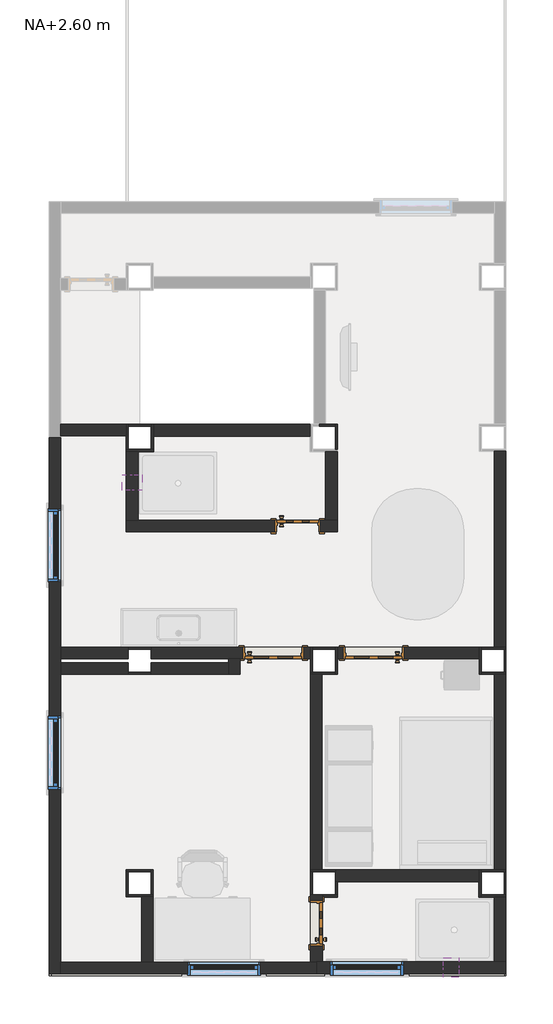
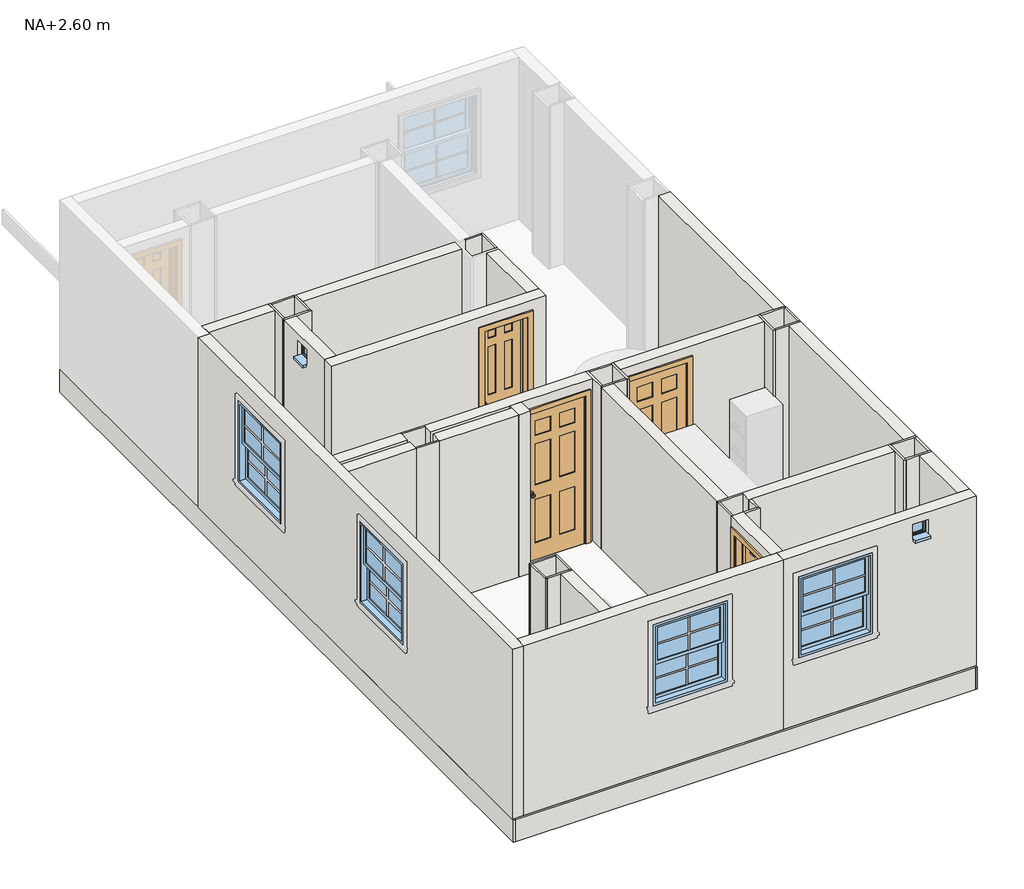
# One storey, part 1 of 2: 52 walls, 6 windows, 4 doors.
"""IFC4 building model written with IfcOpenShell, lengths in millimetres."""

from ifc_helpers import new_model, si_unit, frame, origin, place, context, project, spatial, polyline, outline, extrude, faceted_brep, transform, mapped, element, save
from components import m_puerta_interior_simple_6_paneles_madera_550_x_2000mm_e46cda8c, m_puerta_interior_simple_6_paneles_madera_550_x_2000mm_fa426422, m_puerta_interior_simple_6_paneles_madera_750_x_2000mm_baa31555, m_puerta_interior_simple_6_paneles_madera_750_x_2000mm_028ab884, m_ventana_dos_hojas_500_x_800mm_5dca547a, m_ventana_dos_hojas_650_x_1100mm_6053d4a6, ventana_simple_20_x_20_cm_fcfd3fe3

model = new_model("IFC4")

# Units and contexts
model_context = context("Model", 3, world=origin())
ifc_project = project(units=[si_unit("LENGTHUNIT", "METRE", prefix="MILLI")], contexts=[model_context])

# Site, building, storey
site = spatial("IfcSite", under=ifc_project)
building = spatial("IfcBuilding", under=site)
storey = spatial("IfcBuildingStorey", under=building, Name="NA+2.60 m", Elevation=2600.0)

# Doors
placement = place(None, origin())
m_puerta_interior_simple_6_paneles_madera_550_x_2000mm_shape = m_puerta_interior_simple_6_paneles_madera_550_x_2000mm_e46cda8c(model_context)
element("IfcDoor", 1, ObjectType="M_Puerta-Interior-Simple-6_paneles-Madera : 550 x 2000mm", at=placement, inside=storey, context=model_context, shape_type="MappedRepresentation", body=[
    mapped(m_puerta_interior_simple_6_paneles_madera_550_x_2000mm_shape, transform((1162.3188918, -2331.5117862, 2700.0), x_axis=(1.0, 0.0, 0.0), y_axis=(0.0, 1.0, 0.0), z_axis=(0.0, 0.0, 1.0))),
])
m_puerta_interior_simple_6_paneles_madera_550_x_2000mm_2_shape = m_puerta_interior_simple_6_paneles_madera_550_x_2000mm_fa426422(model_context)
element("IfcDoor", 2, ObjectType="M_Puerta-Interior-Simple-6_paneles-Madera : 550 x 2000mm", at=placement, inside=storey, context=model_context, shape_type="MappedRepresentation", body=[
    mapped(m_puerta_interior_simple_6_paneles_madera_550_x_2000mm_2_shape, transform((1407.9938918, -7507.1867862, 2700.0), x_axis=(0.0, 1.0, 0.0), y_axis=(-1.0, 0.0, 0.0), z_axis=(0.0, 0.0, 1.0))),
])
m_puerta_interior_simple_6_paneles_madera_750_x_2000mm_shape = m_puerta_interior_simple_6_paneles_madera_750_x_2000mm_baa31555(model_context)
element("IfcDoor", 3, ObjectType="M_Puerta-Interior-Simple-6_paneles-Madera : 750 x 2000mm", at=placement, inside=storey, context=model_context, shape_type="MappedRepresentation", body=[
    mapped(m_puerta_interior_simple_6_paneles_madera_750_x_2000mm_shape, transform((2152.3188918, -3990.3617862, 2700.0), x_axis=(-1.0, 0.0, 0.0), y_axis=(0.0, -1.0, 0.0), z_axis=(0.0, 0.0, 1.0))),
])
m_puerta_interior_simple_6_paneles_madera_750_x_2000mm_2_shape = m_puerta_interior_simple_6_paneles_madera_750_x_2000mm_028ab884(model_context)
element("IfcDoor", 4, ObjectType="M_Puerta-Interior-Simple-6_paneles-Madera : 750 x 2000mm", at=placement, inside=storey, context=model_context, shape_type="MappedRepresentation", body=[
    mapped(m_puerta_interior_simple_6_paneles_madera_750_x_2000mm_2_shape, transform((844.8188918, -3990.3617862, 2700.0), x_axis=(1.0, 0.0, 0.0), y_axis=(0.0, 1.0, 0.0), z_axis=(0.0, 0.0, 1.0))),
])

# Walls
element("IfcWall", 5, ObjectType="HECM - Muro Pintura Blanca 2 caras", at=placement, inside=storey, context=model_context, shape_type="Brep", body=[
    faceted_brep([(-1922.6811082, -8162.1867862, 2600.0), (-1922.6811082, -8012.1867862, 2600.0), (-1922.6811082, -4262.1867862, 2600.0), (-1922.6811082, -4112.1867862, 2600.0), (-1922.6811082, -4062.1867862, 2600.0), (-1922.6811082, -3912.1867862, 2600.0), (-1922.6811082, -1187.1867862, 2600.0), (-1922.6811082, -1187.1867862, 4900.0), (-1922.6811082, -3912.1867862, 4900.0), (-1922.6811082, -4062.1867862, 4900.0), (-1922.6811082, -4112.1867862, 4900.0), (-1922.6811082, -4262.1867862, 4900.0), (-1922.6811082, -8012.1867862, 4900.0), (-1922.6811082, -8162.1867862, 4900.0), (-1922.6811082, -5762.1867862, 4614.4), (-1922.6811082, -4812.1867862, 4614.4), (-1922.6811082, -4812.1867862, 3514.4), (-1922.6811082, -5762.1867862, 3514.4), (-1922.6811082, -3062.1867862, 4614.4), (-1922.6811082, -2112.1867862, 4614.4), (-1922.6811082, -2112.1867862, 3514.4), (-1922.6811082, -3062.1867862, 3514.4), (-2072.6811082, -8162.1867862, 2600.0), (-2072.6811082, -8162.1867862, 4900.0), (-2072.6811082, -1187.1867862, 4900.0), (-2072.6811082, -1187.1867862, 2600.0), (-2072.6811082, -5762.1867862, 4614.4), (-2072.6811082, -5762.1867862, 3514.4), (-2072.6811082, -4812.1867862, 3514.4), (-2072.6811082, -4812.1867862, 4614.4), (-2072.6811082, -3062.1867862, 4614.4), (-2072.6811082, -3062.1867862, 3514.4), (-2072.6811082, -2112.1867862, 3514.4), (-2072.6811082, -2112.1867862, 4614.4)], [[[0, 1, 2, 3, 4, 5, 6, 7, 8, 9, 10, 11, 12, 13], [14, 15, 16, 17], [18, 19, 20, 21]], [[22, 23, 24, 25], [26, 27, 28, 29], [30, 31, 32, 33]], [[6, 5, 4, 3, 2, 1, 0, 22, 25]], [[7, 6, 25, 24]], [[13, 12, 11, 10, 9, 8, 7, 24, 23]], [[0, 13, 23, 22]], [[27, 26, 14, 17]], [[28, 27, 17, 16]], [[29, 28, 16, 15]], [[26, 29, 15, 14]], [[31, 30, 18, 21]], [[32, 31, 21, 20]], [[33, 32, 20, 19]], [[30, 33, 19, 18]]]),
])
element("IfcWall", 6, ObjectType="HECM - Muro Pintura Blanca 2 caras", at=placement, inside=storey, context=model_context, shape_type="Brep", body=[
    faceted_brep([(-1922.6811082, -8162.1867862, 2600.0), (1404.8188918, -8162.1867862, 2600.0), (1404.8188918, -8162.1867862, 4900.0), (-1922.6811082, -8162.1867862, 4900.0), (677.3188918, -8162.1867862, 4614.4), (677.3188918, -8162.1867862, 3514.4), (-272.6811082, -8162.1867862, 3514.4), (-272.6811082, -8162.1867862, 4614.4), (-1922.6811082, -8012.1867862, 2600.0), (-1922.6811082, -8012.1867862, 4900.0), (-872.6811082, -8012.1867862, 4900.0), (-722.6811082, -8012.1867862, 4900.0), (1327.3188918, -8012.1867862, 4900.0), (1404.8188918, -8012.1867862, 4900.0), (1404.8188918, -8012.1867862, 2600.0), (1327.3188918, -8012.1867862, 2600.0), (-722.6811082, -8012.1867862, 2600.0), (-872.6811082, -8012.1867862, 2600.0), (677.3188918, -8012.1867862, 4614.4), (-272.6811082, -8012.1867862, 4614.4), (-272.6811082, -8012.1867862, 3514.4), (677.3188918, -8012.1867862, 3514.4)], [[[0, 1, 2, 3], [4, 5, 6, 7]], [[8, 9, 10, 11, 12, 13, 14, 15, 16, 17], [18, 19, 20, 21]], [[1, 0, 8, 17, 16, 15, 14]], [[2, 1, 14, 13]], [[3, 2, 13, 12, 11, 10, 9]], [[0, 3, 9, 8]], [[5, 4, 18, 21]], [[6, 5, 21, 20]], [[7, 6, 20, 19]], [[4, 7, 19, 18]]]),
])
element("IfcWall", 7, ObjectType="HECM - Muro Pintura Blanca - enchape baño", at=placement, inside=storey, context=model_context, shape_type="SweptSolid", body=[
    extrude(outline(polyline([(3877.3188918, -7167.1867862), (3877.3188918, -8007.1867862), (3722.3188918, -8007.1867862), (3722.3188918, -7167.1867862), (3877.3188918, -7167.1867862)])), frame((0.0, 0.0, 2600.0), z_axis=(0.0, 0.0, 1.0), x_axis=(1.0, 0.0, 0.0)), (0.0, 0.0, 1.0), 2300.0),
])
element("IfcWall", 8, ObjectType="HECM - Muro Pintura Blanca 2 caras", at=placement, inside=storey, context=model_context, shape_type="SweptSolid", body=[
    extrude(outline(polyline([(3877.3188918, -4262.1867862), (3877.3188918, -6812.1867862), (3727.3188918, -6812.1867862), (3727.3188918, -4262.1867862), (3877.3188918, -4262.1867862)])), frame((0.0, 0.0, 2600.0), z_axis=(0.0, 0.0, 1.0), x_axis=(1.0, 0.0, 0.0)), (0.0, 0.0, 1.0), 2300.0),
])
element("IfcWall", 9, ObjectType="HECM - Muro Pintura Blanca 2 caras", at=placement, inside=storey, context=model_context, shape_type="SweptSolid", body=[
    extrude(outline(polyline([(3877.3188918, -1362.1867862), (3877.3188918, -3912.1867862), (3727.3188918, -3912.1867862), (3727.3188918, -1362.1867862), (3877.3188918, -1362.1867862)])), frame((0.0, 0.0, 2600.0), z_axis=(0.0, 0.0, 1.0), x_axis=(1.0, 0.0, 0.0)), (0.0, 0.0, 1.0), 2300.0),
])
element("IfcWall", 10, ObjectType="HECM - Muro Pintura Blanca 2 caras", at=placement, inside=storey, context=model_context, shape_type="SweptSolid", body=[
    extrude(outline(polyline([(-872.6811082, -8012.1867862), (-872.6811082, -7162.1867862), (-722.6811082, -7162.1867862), (-722.6811082, -8012.1867862), (-872.6811082, -8012.1867862)])), frame((0.0, 0.0, 2600.0), z_axis=(0.0, 0.0, 1.0), x_axis=(1.0, 0.0, 0.0)), (0.0, 0.0, 1.0), 2300.0),
])
element("IfcWall", 11, ObjectType="HECM - Muro Pintura Blanca - enchape baño", at=placement, inside=storey, context=model_context, shape_type="Brep", body=[
    faceted_brep([(1327.3188918, -7137.1867862, 2600.0), (1327.3188918, -8012.1867862, 2600.0), (1327.3188918, -8012.1867862, 4900.0), (1327.3188918, -7137.1867862, 4900.0), (1327.3188918, -7207.1867862, 4725.0), (1327.3188918, -7807.1867862, 4725.0), (1327.3188918, -7807.1867862, 2700.0), (1327.3188918, -7207.1867862, 2700.0), (1482.3188918, -8007.1867862, 2600.0), (1482.3188918, -7167.1867862, 2600.0), (1482.3188918, -7137.1867862, 2600.0), (1482.3188918, -7137.1867862, 4900.0), (1482.3188918, -7167.1867862, 4900.0), (1482.3188918, -8007.1867862, 4900.0), (1482.3188918, -7807.1867862, 4725.0), (1482.3188918, -7207.1867862, 4725.0), (1482.3188918, -7207.1867862, 2700.0), (1482.3188918, -7807.1867862, 2700.0), (1352.3188918, -7137.1867862, 2600.0), (1404.8188918, -8007.1867862, 2600.0), (1404.8188918, -8012.1867862, 2600.0), (1404.8188918, -8012.1867862, 4900.0), (1404.8188918, -8007.1867862, 4900.0), (1352.3188918, -7137.1867862, 4900.0)], [[[0, 1, 2, 3], [4, 5, 6, 7]], [[8, 9, 10, 11, 12, 13], [14, 15, 16, 17]], [[1, 0, 18, 10, 9, 8, 19, 20]], [[3, 2, 21, 22, 13, 12, 11, 23]], [[0, 3, 23, 11, 10, 18]], [[2, 1, 20, 21]], [[4, 15, 14, 5]], [[5, 14, 17, 6]], [[6, 17, 16, 7]], [[15, 4, 7, 16]], [[20, 19, 22, 21]], [[8, 13, 22, 19]]]),
])
element("IfcWall", 12, ObjectType="HECM - Muro Pintura Blanca - enchape baño", at=placement, inside=storey, context=model_context, shape_type="Brep", body=[
    faceted_brep([(3522.3188918, -6812.1867862, 2600.0), (1652.3188918, -6812.1867862, 2600.0), (1652.3188918, -6812.1867862, 4900.0), (3522.3188918, -6812.1867862, 4900.0), (3522.3188918, -6967.1867862, 2600.0), (3522.3188918, -6967.1867862, 4900.0), (1682.3188918, -6967.1867862, 4900.0), (1652.3188918, -6967.1867862, 4900.0), (1652.3188918, -6967.1867862, 2600.0), (1682.3188918, -6967.1867862, 2600.0), (1652.3188918, -6837.1867862, 2600.0), (1652.3188918, -6837.1867862, 4900.0)], [[[0, 1, 2, 3]], [[4, 5, 6, 7, 8, 9]], [[1, 0, 4, 9, 8, 10]], [[3, 2, 11, 7, 6, 5]], [[2, 1, 10, 8, 7, 11]], [[0, 3, 5, 4]]]),
])
element("IfcWall", 13, ObjectType="HECM - Muro Pintura Blanca 2 caras", at=placement, inside=storey, context=model_context, shape_type="SweptSolid", body=[
    extrude(outline(polyline([(1477.3188918, -4262.1867862), (1477.3188918, -6812.1867862), (1327.3188918, -6812.1867862), (1327.3188918, -4262.1867862), (1477.3188918, -4262.1867862)])), frame((0.0, 0.0, 2600.0), z_axis=(0.0, 0.0, 1.0), x_axis=(1.0, 0.0, 0.0)), (0.0, 0.0, 1.0), 2300.0),
])
element("IfcWall", 14, ObjectType="HECM - Muro Pintura Blanca 2 caras", at=placement, inside=storey, context=model_context, shape_type="SweptSolid", body=[
    extrude(outline(polyline([(2600.0, 1677.3188918), (2600.0, 3527.3188918), (4900.0, 3527.3188918), (4900.0, 1677.3188918), (2600.0, 1677.3188918)]), holes=[polyline([(2700.0, 1752.3188918), (4725.0, 1752.3188918), (4725.0, 2552.3188918), (2700.0, 2552.3188918), (2700.0, 1752.3188918)])]), frame((0.0, -4062.1867862, 0.0), z_axis=(0.0, 1.0, 0.0), x_axis=(0.0, 0.0, 1.0)), (0.0, 0.0, 1.0), 150.0),
])
element("IfcWall", 15, ObjectType="HECM - Muro Pintura Blanca 2 caras", at=placement, inside=storey, context=model_context, shape_type="Brep", body=[
    faceted_brep([(-747.6811082, -4062.1867862, 2600.0), (262.3188918, -4062.1867862, 2600.0), (412.3188918, -4062.1867862, 2600.0), (1327.3188918, -4062.1867862, 2600.0), (1327.3188918, -4062.1867862, 4900.0), (412.3188918, -4062.1867862, 4900.0), (262.3188918, -4062.1867862, 4900.0), (-747.6811082, -4062.1867862, 4900.0), (1244.8188918, -4062.1867862, 4725.0), (1244.8188918, -4062.1867862, 2700.0), (444.8188918, -4062.1867862, 2700.0), (444.8188918, -4062.1867862, 4725.0), (1327.3188918, -3912.1867862, 2600.0), (-747.6811082, -3912.1867862, 2600.0), (-747.6811082, -3912.1867862, 4900.0), (1327.3188918, -3912.1867862, 4900.0), (1244.8188918, -3912.1867862, 2700.0), (1244.8188918, -3912.1867862, 4725.0), (444.8188918, -3912.1867862, 4725.0), (444.8188918, -3912.1867862, 2700.0), (-747.6811082, -3937.1867862, 2600.0), (-747.6811082, -3937.1867862, 4900.0)], [[[0, 1, 2, 3, 4, 5, 6, 7], [8, 9, 10, 11]], [[12, 13, 14, 15], [16, 17, 18, 19]], [[3, 2, 1, 0, 20, 13, 12]], [[7, 6, 5, 4, 15, 14, 21]], [[0, 7, 21, 14, 13, 20]], [[16, 9, 8, 17]], [[17, 8, 11, 18]], [[18, 11, 10, 19]], [[9, 16, 19, 10]], [[4, 3, 12, 15]]]),
])
element("IfcWall", 16, ObjectType="HECM - Muro Pintura Blanca 2 caras", at=placement, inside=storey, context=model_context, shape_type="Brep", body=[
    faceted_brep([(-747.6811082, -4262.1867862, 2600.0), (262.3188918, -4262.1867862, 2600.0), (262.3188918, -4262.1867862, 4900.0), (-747.6811082, -4262.1867862, 4900.0), (-747.6811082, -4112.1867862, 2600.0), (-747.6811082, -4112.1867862, 4900.0), (262.3188918, -4112.1867862, 4900.0), (262.3188918, -4112.1867862, 2600.0), (-747.6811082, -4237.1867862, 2600.0), (-747.6811082, -4237.1867862, 4900.0)], [[[0, 1, 2, 3]], [[4, 5, 6, 7]], [[1, 0, 8, 4, 7]], [[3, 2, 6, 5, 9]], [[0, 3, 9, 5, 4, 8]], [[2, 1, 7, 6]]]),
])
element("IfcWall", 17, ObjectType="HECM - Muro Pintura Blanca 2 caras", at=placement, inside=storey, context=model_context, shape_type="Brep", body=[
    faceted_brep([(412.3188918, -4262.1867862, 2600.0), (412.3188918, -4062.1867862, 2600.0), (412.3188918, -4062.1867862, 4900.0), (412.3188918, -4262.1867862, 4900.0), (262.3188918, -4262.1867862, 2600.0), (262.3188918, -4262.1867862, 4900.0), (262.3188918, -4112.1867862, 4900.0), (262.3188918, -4062.1867862, 4900.0), (262.3188918, -4062.1867862, 2600.0), (262.3188918, -4112.1867862, 2600.0)], [[[0, 1, 2, 3]], [[4, 5, 6, 7, 8, 9]], [[1, 0, 4, 9, 8]], [[3, 2, 7, 6, 5]], [[0, 3, 5, 4]], [[2, 1, 8, 7]]]),
])
element("IfcWall", 18, ObjectType="HECM - Muro Pintura Blanca 2 caras", at=placement, inside=storey, context=model_context, shape_type="Brep", body=[
    faceted_brep([(-1047.6811082, -3912.1867862, 2600.0), (-1922.6811082, -3912.1867862, 2600.0), (-1922.6811082, -3912.1867862, 4900.0), (-1047.6811082, -3912.1867862, 4900.0), (-1047.6811082, -4062.1867862, 2600.0), (-1047.6811082, -4062.1867862, 4900.0), (-1922.6811082, -4062.1867862, 4900.0), (-1922.6811082, -4062.1867862, 2600.0), (-1047.6811082, -3937.1867862, 2600.0), (-1047.6811082, -3937.1867862, 4900.0)], [[[0, 1, 2, 3]], [[4, 5, 6, 7]], [[1, 0, 8, 4, 7]], [[3, 2, 6, 5, 9]], [[0, 3, 9, 5, 4, 8]], [[2, 1, 7, 6]]]),
])
element("IfcWall", 19, ObjectType="HECM - Muro Pintura Blanca 2 caras", at=placement, inside=storey, context=model_context, shape_type="Brep", body=[
    faceted_brep([(-1047.6811082, -4112.1867862, 2600.0), (-1922.6811082, -4112.1867862, 2600.0), (-1922.6811082, -4112.1867862, 4900.0), (-1047.6811082, -4112.1867862, 4900.0), (-1047.6811082, -4262.1867862, 2600.0), (-1047.6811082, -4262.1867862, 4900.0), (-1922.6811082, -4262.1867862, 4900.0), (-1922.6811082, -4262.1867862, 2600.0), (-1047.6811082, -4237.1867862, 2600.0), (-1047.6811082, -4237.1867862, 4900.0)], [[[0, 1, 2, 3]], [[4, 5, 6, 7]], [[1, 0, 8, 4, 7]], [[3, 2, 6, 5, 9]], [[0, 3, 9, 5, 4, 8]], [[2, 1, 7, 6]]]),
])
element("IfcWall", 20, ObjectType="HECM - Muro Pintura Blanca 2 caras", at=placement, inside=storey, context=model_context, shape_type="SweptSolid", body=[
    extrude(outline(polyline([(-1922.6811082, -1012.1867862), (-1072.6811082, -1012.1867862), (-1072.6811082, -1162.1867862), (-1922.6811082, -1162.1867862), (-1922.6811082, -1012.1867862)])), frame((0.0, 0.0, 2600.0), z_axis=(0.0, 0.0, 1.0), x_axis=(1.0, 0.0, 0.0)), (0.0, 0.0, 1.0), 2300.0),
])
element("IfcWall", 21, ObjectType="HECM - Muro Pintura Blanca - enchape baño", at=placement, inside=storey, context=model_context, shape_type="SweptSolid", body=[
    extrude(outline(polyline([(1322.3188918, -1167.1867862), (-717.6811082, -1167.1867862), (-717.6811082, -1012.1867862), (1322.3188918, -1012.1867862), (1322.3188918, -1167.1867862)])), frame((0.0, 0.0, 2600.0), z_axis=(0.0, 0.0, 1.0), x_axis=(1.0, 0.0, 0.0)), (0.0, 0.0, 1.0), 2300.0),
])
element("IfcWall", 22, ObjectType="HECM - Muro Pintura Blanca - enchape baño", at=placement, inside=storey, context=model_context, shape_type="Brep", body=[
    faceted_brep([(1677.3188918, -2412.1867862, 4900.0), (-1072.6811082, -2412.1867862, 4900.0), (-1072.6811082, -2412.1867862, 2700.0), (-1072.6811082, -2412.1867862, 2600.0), (862.3188918, -2412.1867862, 2600.0), (862.3188918, -2412.1867862, 2700.0), (862.3188918, -2412.1867862, 4725.0), (1462.3188918, -2412.1867862, 4725.0), (1462.3188918, -2412.1867862, 2700.0), (1437.3188918, -2412.1867862, 2700.0), (1437.3188918, -2412.1867862, 2600.0), (1677.3188918, -2412.1867862, 2600.0), (1677.3188918, -2412.1867862, 2700.0), (-1072.6811082, -2257.1867862, 4900.0), (-917.6811082, -2257.1867862, 4900.0), (1522.3188918, -2257.1867862, 4900.0), (1677.3188918, -2257.1867862, 4900.0), (1677.3188918, -2257.1867862, 2700.0), (1677.3188918, -2257.1867862, 2600.0), (1522.3188918, -2257.1867862, 2600.0), (1437.3188918, -2257.1867862, 2600.0), (1437.3188918, -2257.1867862, 2700.0), (1462.3188918, -2257.1867862, 2700.0), (1462.3188918, -2257.1867862, 4725.0), (862.3188918, -2257.1867862, 4725.0), (862.3188918, -2257.1867862, 2700.0), (862.3188918, -2257.1867862, 2600.0), (-917.6811082, -2257.1867862, 2600.0), (-1072.6811082, -2257.1867862, 2600.0), (-1072.6811082, -2257.1867862, 2700.0)], [[[0, 1, 2, 3, 4, 5, 6, 7, 8, 9, 10, 11, 12]], [[13, 14, 15, 16, 17, 18, 19, 20, 21, 22, 23, 24, 25, 26, 27, 28, 29]], [[3, 28, 27, 26, 4]], [[18, 11, 10, 20, 19]], [[1, 0, 16, 15, 14, 13]], [[1, 13, 29, 28, 3, 2]], [[11, 18, 17, 16, 0, 12]], [[22, 8, 7, 23]], [[23, 7, 6, 24]], [[24, 6, 5, 4, 26, 25]], [[8, 22, 21, 9]], [[10, 9, 21, 20]]]),
])
element("IfcWall", 23, ObjectType="HECM - Muro Pintura Blanca - enchape baño", at=placement, inside=storey, context=model_context, shape_type="SweptSolid", body=[
    extrude(outline(polyline([(-1367.1867862, 2600.0), (-2257.1867862, 2600.0), (-2257.1867862, 4900.0), (-1367.1867862, 4900.0), (-1367.1867862, 2600.0)]), holes=[polyline([(-1667.1867862, 4600.0), (-1667.1867862, 4800.0), (-1867.1867862, 4800.0), (-1867.1867862, 4600.0), (-1667.1867862, 4600.0)])]), frame((-1072.6811082, 0.0, 0.0), z_axis=(1.0, 0.0, 0.0), x_axis=(0.0, 1.0, 0.0)), (0.0, 0.0, 1.0), 155.0),
])
element("IfcWall", 24, ObjectType="HECM - Muro Pintura Blanca - enchape baño", at=placement, inside=storey, context=model_context, shape_type="SweptSolid", body=[
    extrude(outline(polyline([(1677.3188918, -1367.1867862), (1677.3188918, -2257.1867862), (1522.3188918, -2257.1867862), (1522.3188918, -1367.1867862), (1677.3188918, -1367.1867862)])), frame((0.0, 0.0, 2600.0), z_axis=(0.0, 0.0, 1.0), x_axis=(1.0, 0.0, 0.0)), (0.0, 0.0, 1.0), 2300.0),
])
element("IfcWall", 25, ObjectType="HECM - Acabado de pintura blanca", at=placement, inside=storey, context=model_context, shape_type="SweptSolid", body=[
    extrude(outline(polyline([(1327.3188918, -7137.1867862), (1327.3188918, -6837.1867862), (1352.3188918, -6837.1867862), (1352.3188918, -7137.1867862), (1327.3188918, -7137.1867862)])), frame((0.0, 0.0, 2600.0), z_axis=(0.0, 0.0, 1.0), x_axis=(1.0, 0.0, 0.0)), (0.0, 0.0, 1.0), 2300.0),
])
element("IfcWall", 26, ObjectType="HECM - Acabado de pintura blanca", at=placement, inside=storey, context=model_context, shape_type="Brep", body=[
    faceted_brep([(1327.3188918, -6837.1867862, 2600.0), (1352.3188918, -6837.1867862, 2600.0), (1652.3188918, -6837.1867862, 2600.0), (1652.3188918, -6837.1867862, 4900.0), (1352.3188918, -6837.1867862, 4900.0), (1327.3188918, -6837.1867862, 4900.0), (1327.3188918, -6812.1867862, 2600.0), (1327.3188918, -6812.1867862, 4900.0), (1477.3188918, -6812.1867862, 4900.0), (1652.3188918, -6812.1867862, 4900.0), (1652.3188918, -6812.1867862, 2600.0), (1477.3188918, -6812.1867862, 2600.0)], [[[0, 1, 2, 3, 4, 5]], [[6, 7, 8, 9, 10, 11]], [[2, 1, 0, 6, 11, 10]], [[5, 4, 3, 9, 8, 7]], [[0, 5, 7, 6]], [[3, 2, 10, 9]]]),
])
element("IfcWall", 27, ObjectType="HECM - Acabado de pintura blanca", at=placement, inside=storey, context=model_context, shape_type="Brep", body=[
    faceted_brep([(-722.6811082, -7137.1867862, 2600.0), (-722.6811082, -6812.1867862, 2600.0), (-722.6811082, -6812.1867862, 4900.0), (-722.6811082, -7137.1867862, 4900.0), (-747.6811082, -7137.1867862, 2600.0), (-747.6811082, -7137.1867862, 4900.0), (-747.6811082, -6837.1867862, 4900.0), (-747.6811082, -6812.1867862, 4900.0), (-747.6811082, -6812.1867862, 2600.0), (-747.6811082, -6837.1867862, 2600.0)], [[[0, 1, 2, 3]], [[4, 5, 6, 7, 8, 9]], [[1, 0, 4, 9, 8]], [[3, 2, 7, 6, 5]], [[2, 1, 8, 7]], [[0, 3, 5, 4]]]),
])
element("IfcWall", 28, ObjectType="HECM - Acabado de pintura blanca", at=placement, inside=storey, context=model_context, shape_type="Brep", body=[
    faceted_brep([(-747.6811082, -6812.1867862, 2600.0), (-1072.6811082, -6812.1867862, 2600.0), (-1072.6811082, -6812.1867862, 4900.0), (-747.6811082, -6812.1867862, 4900.0), (-747.6811082, -6837.1867862, 2600.0), (-747.6811082, -6837.1867862, 4900.0), (-1047.6811082, -6837.1867862, 4900.0), (-1072.6811082, -6837.1867862, 4900.0), (-1072.6811082, -6837.1867862, 2600.0), (-1047.6811082, -6837.1867862, 2600.0)], [[[0, 1, 2, 3]], [[4, 5, 6, 7, 8, 9]], [[1, 0, 4, 9, 8]], [[3, 2, 7, 6, 5]], [[0, 3, 5, 4]], [[2, 1, 8, 7]]]),
])
element("IfcWall", 29, ObjectType="HECM - Acabado de pintura blanca", at=placement, inside=storey, context=model_context, shape_type="Brep", body=[
    faceted_brep([(-1072.6811082, -6837.1867862, 2600.0), (-1072.6811082, -7162.1867862, 2600.0), (-1072.6811082, -7162.1867862, 4900.0), (-1072.6811082, -6837.1867862, 4900.0), (-1047.6811082, -6837.1867862, 2600.0), (-1047.6811082, -6837.1867862, 4900.0), (-1047.6811082, -7137.1867862, 4900.0), (-1047.6811082, -7162.1867862, 4900.0), (-1047.6811082, -7162.1867862, 2600.0), (-1047.6811082, -7137.1867862, 2600.0)], [[[0, 1, 2, 3]], [[4, 5, 6, 7, 8, 9]], [[1, 0, 4, 9, 8]], [[3, 2, 7, 6, 5]], [[0, 3, 5, 4]], [[2, 1, 8, 7]]]),
])
element("IfcWall", 30, ObjectType="HECM - Acabado de pintura blanca", at=placement, inside=storey, context=model_context, shape_type="Brep", body=[
    faceted_brep([(-1047.6811082, -7162.1867862, 2600.0), (-872.6811082, -7162.1867862, 2600.0), (-722.6811082, -7162.1867862, 2600.0), (-722.6811082, -7162.1867862, 4900.0), (-872.6811082, -7162.1867862, 4900.0), (-1047.6811082, -7162.1867862, 4900.0), (-1047.6811082, -7137.1867862, 2600.0), (-1047.6811082, -7137.1867862, 4900.0), (-747.6811082, -7137.1867862, 4900.0), (-722.6811082, -7137.1867862, 4900.0), (-722.6811082, -7137.1867862, 2600.0), (-747.6811082, -7137.1867862, 2600.0)], [[[0, 1, 2, 3, 4, 5]], [[6, 7, 8, 9, 10, 11]], [[2, 1, 0, 6, 11, 10]], [[5, 4, 3, 9, 8, 7]], [[3, 2, 10, 9]], [[0, 5, 7, 6]]]),
])
element("IfcWall", 31, ObjectType="HECM - Acabado de pintura blanca", at=placement, inside=storey, context=model_context, shape_type="Brep", body=[
    faceted_brep([(3877.3188918, -6812.1867862, 2600.0), (3727.3188918, -6812.1867862, 2600.0), (3552.3188918, -6812.1867862, 2600.0), (3552.3188918, -6812.1867862, 4900.0), (3727.3188918, -6812.1867862, 4900.0), (3877.3188918, -6812.1867862, 4900.0), (3877.3188918, -6837.1867862, 2600.0), (3877.3188918, -6837.1867862, 4900.0), (3852.3188918, -6837.1867862, 4900.0), (3552.3188918, -6837.1867862, 4900.0), (3552.3188918, -6837.1867862, 2600.0), (3852.3188918, -6837.1867862, 2600.0)], [[[0, 1, 2, 3, 4, 5]], [[6, 7, 8, 9, 10, 11]], [[2, 1, 0, 6, 11, 10]], [[5, 4, 3, 9, 8, 7]], [[0, 5, 7, 6]], [[3, 2, 10, 9]]]),
])
element("IfcWall", 32, ObjectType="HECM - Acabado de pintura blanca", at=placement, inside=storey, context=model_context, shape_type="SweptSolid", body=[
    extrude(outline(polyline([(-747.6811082, -3937.1867862), (-1047.6811082, -3937.1867862), (-1047.6811082, -3912.1867862), (-747.6811082, -3912.1867862), (-747.6811082, -3937.1867862)])), frame((0.0, 0.0, 2600.0), z_axis=(0.0, 0.0, 1.0), x_axis=(1.0, 0.0, 0.0)), (0.0, 0.0, 1.0), 2300.0),
])
element("IfcWall", 33, ObjectType="HECM - Acabado de pintura blanca", at=placement, inside=storey, context=model_context, shape_type="SweptSolid", body=[
    extrude(outline(polyline([(-1047.6811082, -4237.1867862), (-747.6811082, -4237.1867862), (-747.6811082, -4262.1867862), (-1047.6811082, -4262.1867862), (-1047.6811082, -4237.1867862)])), frame((0.0, 0.0, 2600.0), z_axis=(0.0, 0.0, 1.0), x_axis=(1.0, 0.0, 0.0)), (0.0, 0.0, 1.0), 2300.0),
])
element("IfcWall", 34, ObjectType="HECM - Acabado de pintura blanca", at=placement, inside=storey, context=model_context, shape_type="Brep", body=[
    faceted_brep([(1352.3188918, -4237.1867862, 2600.0), (1352.3188918, -3937.1867862, 2600.0), (1352.3188918, -3912.1867862, 2600.0), (1352.3188918, -3912.1867862, 4900.0), (1352.3188918, -3937.1867862, 4900.0), (1352.3188918, -4237.1867862, 4900.0), (1327.3188918, -4237.1867862, 2600.0), (1327.3188918, -4237.1867862, 4900.0), (1327.3188918, -4062.1867862, 4900.0), (1327.3188918, -3912.1867862, 4900.0), (1327.3188918, -3912.1867862, 2600.0), (1327.3188918, -4062.1867862, 2600.0)], [[[0, 1, 2, 3, 4, 5]], [[6, 7, 8, 9, 10, 11]], [[2, 1, 0, 6, 11, 10]], [[5, 4, 3, 9, 8, 7]], [[3, 2, 10, 9]], [[0, 5, 7, 6]]]),
])
element("IfcWall", 35, ObjectType="HECM - Acabado de pintura blanca", at=placement, inside=storey, context=model_context, shape_type="SweptSolid", body=[
    extrude(outline(polyline([(1652.3188918, -3937.1867862), (1352.3188918, -3937.1867862), (1352.3188918, -3912.1867862), (1652.3188918, -3912.1867862), (1652.3188918, -3937.1867862)])), frame((0.0, 0.0, 2600.0), z_axis=(0.0, 0.0, 1.0), x_axis=(1.0, 0.0, 0.0)), (0.0, 0.0, 1.0), 2300.0),
])
element("IfcWall", 36, ObjectType="HECM - Acabado de pintura blanca", at=placement, inside=storey, context=model_context, shape_type="Brep", body=[
    faceted_brep([(1652.3188918, -3912.1867862, 2600.0), (1652.3188918, -3937.1867862, 2600.0), (1652.3188918, -4237.1867862, 2600.0), (1652.3188918, -4262.1867862, 2600.0), (1652.3188918, -4262.1867862, 4900.0), (1652.3188918, -4237.1867862, 4900.0), (1652.3188918, -3937.1867862, 4900.0), (1652.3188918, -3912.1867862, 4900.0), (1677.3188918, -3912.1867862, 2600.0), (1677.3188918, -3912.1867862, 4900.0), (1677.3188918, -4062.1867862, 4900.0), (1677.3188918, -4262.1867862, 4900.0), (1677.3188918, -4262.1867862, 2600.0), (1677.3188918, -4062.1867862, 2600.0)], [[[0, 1, 2, 3, 4, 5, 6, 7]], [[8, 9, 10, 11, 12, 13]], [[3, 2, 1, 0, 8, 13, 12]], [[7, 6, 5, 4, 11, 10, 9]], [[0, 7, 9, 8]], [[4, 3, 12, 11]]]),
])
element("IfcWall", 37, ObjectType="HECM - Acabado de pintura blanca", at=placement, inside=storey, context=model_context, shape_type="Brep", body=[
    faceted_brep([(1652.3188918, -4237.1867862, 2600.0), (1352.3188918, -4237.1867862, 2600.0), (1327.3188918, -4237.1867862, 2600.0), (1327.3188918, -4237.1867862, 4900.0), (1352.3188918, -4237.1867862, 4900.0), (1652.3188918, -4237.1867862, 4900.0), (1652.3188918, -4262.1867862, 2600.0), (1652.3188918, -4262.1867862, 4900.0), (1477.3188918, -4262.1867862, 4900.0), (1327.3188918, -4262.1867862, 4900.0), (1327.3188918, -4262.1867862, 2600.0), (1477.3188918, -4262.1867862, 2600.0)], [[[0, 1, 2, 3, 4, 5]], [[6, 7, 8, 9, 10, 11]], [[2, 1, 0, 6, 11, 10]], [[5, 4, 3, 9, 8, 7]], [[3, 2, 10, 9]], [[0, 5, 7, 6]]]),
])
element("IfcWall", 38, ObjectType="HECM - Acabado de pintura blanca", at=placement, inside=storey, context=model_context, shape_type="Brep", body=[
    faceted_brep([(3552.3188918, -3937.1867862, 2600.0), (3852.3188918, -3937.1867862, 2600.0), (3877.3188918, -3937.1867862, 2600.0), (3877.3188918, -3937.1867862, 4900.0), (3852.3188918, -3937.1867862, 4900.0), (3552.3188918, -3937.1867862, 4900.0), (3552.3188918, -3912.1867862, 2600.0), (3552.3188918, -3912.1867862, 4900.0), (3727.3188918, -3912.1867862, 4900.0), (3877.3188918, -3912.1867862, 4900.0), (3877.3188918, -3912.1867862, 2600.0), (3727.3188918, -3912.1867862, 2600.0)], [[[0, 1, 2, 3, 4, 5]], [[6, 7, 8, 9, 10, 11]], [[2, 1, 0, 6, 11, 10]], [[5, 4, 3, 9, 8, 7]], [[3, 2, 10, 9]], [[0, 5, 7, 6]]]),
])
element("IfcWall", 39, ObjectType="HECM - Acabado de pintura blanca", at=placement, inside=storey, context=model_context, shape_type="Brep", body=[
    faceted_brep([(3527.3188918, -3912.1867862, 2600.0), (3527.3188918, -4062.1867862, 2600.0), (3527.3188918, -4262.1867862, 2600.0), (3527.3188918, -4262.1867862, 4900.0), (3527.3188918, -4062.1867862, 4900.0), (3527.3188918, -3912.1867862, 4900.0), (3552.3188918, -3912.1867862, 2600.0), (3552.3188918, -3912.1867862, 4900.0), (3552.3188918, -3937.1867862, 4900.0), (3552.3188918, -4237.1867862, 4900.0), (3552.3188918, -4262.1867862, 4900.0), (3552.3188918, -4262.1867862, 2600.0), (3552.3188918, -4237.1867862, 2600.0), (3552.3188918, -3937.1867862, 2600.0)], [[[0, 1, 2, 3, 4, 5]], [[6, 7, 8, 9, 10, 11, 12, 13]], [[2, 1, 0, 6, 13, 12, 11]], [[5, 4, 3, 10, 9, 8, 7]], [[0, 5, 7, 6]], [[3, 2, 11, 10]]]),
])
element("IfcWall", 40, ObjectType="HECM - Acabado de pintura blanca", at=placement, inside=storey, context=model_context, shape_type="Brep", body=[
    faceted_brep([(3552.3188918, -4262.1867862, 2600.0), (3727.3188918, -4262.1867862, 2600.0), (3877.3188918, -4262.1867862, 2600.0), (3877.3188918, -4262.1867862, 4900.0), (3727.3188918, -4262.1867862, 4900.0), (3552.3188918, -4262.1867862, 4900.0), (3552.3188918, -4237.1867862, 2600.0), (3552.3188918, -4237.1867862, 4900.0), (3852.3188918, -4237.1867862, 4900.0), (3877.3188918, -4237.1867862, 4900.0), (3877.3188918, -4237.1867862, 2600.0), (3852.3188918, -4237.1867862, 2600.0)], [[[0, 1, 2, 3, 4, 5]], [[6, 7, 8, 9, 10, 11]], [[2, 1, 0, 6, 11, 10]], [[5, 4, 3, 9, 8, 7]], [[3, 2, 10, 9]], [[0, 5, 7, 6]]]),
])
element("IfcWall", 41, ObjectType="HECM - Acabado de pintura blanca", at=placement, inside=storey, context=model_context, shape_type="Brep", body=[
    faceted_brep([(1677.3188918, -1337.1867862, 2600.0), (1677.3188918, -1012.1867862, 2600.0), (1677.3188918, -1012.1867862, 4900.0), (1677.3188918, -1337.1867862, 4900.0), (1652.3188918, -1337.1867862, 2600.0), (1652.3188918, -1337.1867862, 4900.0), (1652.3188918, -1037.1867862, 4900.0), (1652.3188918, -1012.1867862, 4900.0), (1652.3188918, -1012.1867862, 2600.0), (1652.3188918, -1037.1867862, 2600.0)], [[[0, 1, 2, 3]], [[4, 5, 6, 7, 8, 9]], [[1, 0, 4, 9, 8]], [[3, 2, 7, 6, 5]], [[2, 1, 8, 7]], [[0, 3, 5, 4]]]),
])
element("IfcWall", 42, ObjectType="HECM - Acabado de pintura blanca", at=placement, inside=storey, context=model_context, shape_type="Brep", body=[
    faceted_brep([(1652.3188918, -1012.1867862, 2600.0), (1522.3188918, -1012.1867862, 2600.0), (1447.3188918, -1012.1867862, 2600.0), (1447.3188918, -1012.1867862, 4900.0), (1522.3188918, -1012.1867862, 4900.0), (1652.3188918, -1012.1867862, 4900.0), (1652.3188918, -1037.1867862, 2600.0), (1652.3188918, -1037.1867862, 4900.0), (1447.3188918, -1037.1867862, 4900.0), (1447.3188918, -1037.1867862, 2600.0)], [[[0, 1, 2, 3, 4, 5]], [[6, 7, 8, 9]], [[2, 1, 0, 6, 9]], [[3, 2, 9, 8]], [[5, 4, 3, 8, 7]], [[0, 5, 7, 6]]]),
])
element("IfcWall", 43, ObjectType="HECM - Acabado de pintura blanca", at=placement, inside=storey, context=model_context, shape_type="Brep", body=[
    faceted_brep([(-1047.6811082, -1337.1867862, 2600.0), (-1047.6811082, -1037.1867862, 2600.0), (-1047.6811082, -1012.1867862, 2600.0), (-1047.6811082, -1012.1867862, 4900.0), (-1047.6811082, -1037.1867862, 4900.0), (-1047.6811082, -1337.1867862, 4900.0), (-1072.6811082, -1337.1867862, 2600.0), (-1072.6811082, -1337.1867862, 4900.0), (-1072.6811082, -1162.1867862, 4900.0), (-1072.6811082, -1012.1867862, 4900.0), (-1072.6811082, -1012.1867862, 2600.0), (-1072.6811082, -1162.1867862, 2600.0)], [[[0, 1, 2, 3, 4, 5]], [[6, 7, 8, 9, 10, 11]], [[2, 1, 0, 6, 11, 10]], [[5, 4, 3, 9, 8, 7]], [[3, 2, 10, 9]], [[0, 5, 7, 6]]]),
])
element("IfcWall", 44, ObjectType="HECM - Acabado de pintura blanca", at=placement, inside=storey, context=model_context, shape_type="SweptSolid", body=[
    extrude(outline(polyline([(-747.6811082, -1037.1867862), (-1047.6811082, -1037.1867862), (-1047.6811082, -1012.1867862), (-747.6811082, -1012.1867862), (-747.6811082, -1037.1867862)])), frame((0.0, 0.0, 2600.0), z_axis=(0.0, 0.0, 1.0), x_axis=(1.0, 0.0, 0.0)), (0.0, 0.0, 1.0), 2300.0),
])
element("IfcWall", 45, ObjectType="HECM - Acabado de pintura blanca", at=placement, inside=storey, context=model_context, shape_type="SweptSolid", body=[
    extrude(outline(polyline([(3877.3188918, -3937.1867862), (3877.3188918, -4237.1867862), (3852.3188918, -4237.1867862), (3852.3188918, -3937.1867862), (3877.3188918, -3937.1867862)])), frame((0.0, 0.0, 2600.0), z_axis=(0.0, 0.0, 1.0), x_axis=(1.0, 0.0, 0.0)), (0.0, 0.0, 1.0), 2300.0),
])
element("IfcWall", 46, ObjectType="HECM - Acabado de pintura blanca", at=placement, inside=storey, context=model_context, shape_type="SweptSolid", body=[
    extrude(outline(polyline([(3877.3188918, -6837.1867862), (3877.3188918, -7137.1867862), (3852.3188918, -7137.1867862), (3852.3188918, -6837.1867862), (3877.3188918, -6837.1867862)])), frame((0.0, 0.0, 2600.0), z_axis=(0.0, 0.0, 1.0), x_axis=(1.0, 0.0, 0.0)), (0.0, 0.0, 1.0), 2300.0),
])
element("IfcWall", 47, ObjectType="HECM - Enchape baño", at=placement, inside=storey, context=model_context, shape_type="Brep", body=[
    faceted_brep([(-1072.6811082, -1367.1867862, 2600.0), (-917.6811082, -1367.1867862, 2600.0), (-717.6811082, -1367.1867862, 2600.0), (-717.6811082, -1367.1867862, 4900.0), (-917.6811082, -1367.1867862, 4900.0), (-1072.6811082, -1367.1867862, 4900.0), (-1072.6811082, -1337.1867862, 2600.0), (-1072.6811082, -1337.1867862, 4900.0), (-1047.6811082, -1337.1867862, 4900.0), (-747.6811082, -1337.1867862, 4900.0), (-717.6811082, -1337.1867862, 4900.0), (-717.6811082, -1337.1867862, 2600.0), (-747.6811082, -1337.1867862, 2600.0), (-1047.6811082, -1337.1867862, 2600.0)], [[[0, 1, 2, 3, 4, 5]], [[6, 7, 8, 9, 10, 11, 12, 13]], [[2, 1, 0, 6, 13, 12, 11]], [[5, 4, 3, 10, 9, 8, 7]], [[0, 5, 7, 6]], [[3, 2, 11, 10]]]),
])
element("IfcWall", 48, ObjectType="HECM - Enchape baño", at=placement, inside=storey, context=model_context, shape_type="Brep", body=[
    faceted_brep([(-717.6811082, -1337.1867862, 2600.0), (-717.6811082, -1167.1867862, 2600.0), (-717.6811082, -1012.1867862, 2600.0), (-717.6811082, -1012.1867862, 4900.0), (-717.6811082, -1167.1867862, 4900.0), (-717.6811082, -1337.1867862, 4900.0), (-747.6811082, -1337.1867862, 2600.0), (-747.6811082, -1337.1867862, 4900.0), (-747.6811082, -1037.1867862, 4900.0), (-747.6811082, -1012.1867862, 4900.0), (-747.6811082, -1012.1867862, 2600.0), (-747.6811082, -1037.1867862, 2600.0)], [[[0, 1, 2, 3, 4, 5]], [[6, 7, 8, 9, 10, 11]], [[2, 1, 0, 6, 11, 10]], [[5, 4, 3, 9, 8, 7]], [[3, 2, 10, 9]], [[0, 5, 7, 6]]]),
])
element("IfcWall", 49, ObjectType="HECM - Muro Pintura Blanca - enchape baño", at=placement, inside=storey, context=model_context, shape_type="Brep", body=[
    faceted_brep([(1404.8188918, -8162.1867862, 2600.0), (3877.3188918, -8162.1867862, 2600.0), (3877.3188918, -8162.1867862, 4900.0), (1404.8188918, -8162.1867862, 4900.0), (2537.3188918, -8162.1867862, 4614.4), (2537.3188918, -8162.1867862, 3514.4), (1587.3188918, -8162.1867862, 3514.4), (1587.3188918, -8162.1867862, 4614.4), (3262.3188918, -8162.1867862, 4600.0), (3062.3188918, -8162.1867862, 4600.0), (3062.3188918, -8162.1867862, 4800.0), (3262.3188918, -8162.1867862, 4800.0), (1404.8188918, -8007.1867862, 2600.0), (1404.8188918, -8007.1867862, 4900.0), (1482.3188918, -8007.1867862, 4900.0), (3722.3188918, -8007.1867862, 4900.0), (3877.3188918, -8007.1867862, 4900.0), (3877.3188918, -8007.1867862, 2600.0), (3722.3188918, -8007.1867862, 2600.0), (1482.3188918, -8007.1867862, 2600.0), (2537.3188918, -8007.1867862, 4614.4), (1587.3188918, -8007.1867862, 4614.4), (1587.3188918, -8007.1867862, 3514.4), (2537.3188918, -8007.1867862, 3514.4), (3262.3188918, -8007.1867862, 4600.0), (3262.3188918, -8007.1867862, 4800.0), (3062.3188918, -8007.1867862, 4800.0), (3062.3188918, -8007.1867862, 4600.0), (1404.8188918, -8012.1867862, 2600.0), (1404.8188918, -8012.1867862, 4900.0)], [[[0, 1, 2, 3], [4, 5, 6, 7], [8, 9, 10, 11]], [[12, 13, 14, 15, 16, 17, 18, 19], [20, 21, 22, 23], [24, 25, 26, 27]], [[1, 0, 28, 12, 19, 18, 17]], [[3, 2, 16, 15, 14, 13, 29]], [[0, 3, 29, 13, 12, 28]], [[2, 1, 17, 16]], [[4, 7, 21, 20]], [[7, 6, 22, 21]], [[6, 5, 23, 22]], [[5, 4, 20, 23]], [[24, 27, 9, 8]], [[27, 26, 10, 9]], [[26, 25, 11, 10]], [[25, 24, 8, 11]]]),
])
element("IfcWall", 50, ObjectType="HECM - Enchape baño", at=placement, inside=storey, context=model_context, shape_type="Brep", body=[
    faceted_brep([(1482.3188918, -7167.1867862, 2600.0), (1682.3188918, -7167.1867862, 2600.0), (1682.3188918, -7167.1867862, 4900.0), (1482.3188918, -7167.1867862, 4900.0), (1482.3188918, -7137.1867862, 2600.0), (1482.3188918, -7137.1867862, 4900.0), (1652.3188918, -7137.1867862, 4900.0), (1682.3188918, -7137.1867862, 4900.0), (1682.3188918, -7137.1867862, 2600.0), (1652.3188918, -7137.1867862, 2600.0)], [[[0, 1, 2, 3]], [[4, 5, 6, 7, 8, 9]], [[1, 0, 4, 9, 8]], [[3, 2, 7, 6, 5]], [[0, 3, 5, 4]], [[2, 1, 8, 7]]]),
])
element("IfcWall", 51, ObjectType="HECM - Enchape baño", at=placement, inside=storey, context=model_context, shape_type="SweptSolid", body=[
    extrude(outline(polyline([(1682.3188918, -6967.1867862), (1682.3188918, -7137.1867862), (1652.3188918, -7137.1867862), (1652.3188918, -6967.1867862), (1682.3188918, -6967.1867862)])), frame((0.0, 0.0, 2600.0), z_axis=(0.0, 0.0, 1.0), x_axis=(1.0, 0.0, 0.0)), (0.0, 0.0, 1.0), 2300.0),
])
element("IfcWall", 52, ObjectType="HECM - Enchape baño", at=placement, inside=storey, context=model_context, shape_type="Brep", body=[
    faceted_brep([(3522.3188918, -6812.1867862, 2600.0), (3522.3188918, -6967.1867862, 2600.0), (3522.3188918, -7167.1867862, 2600.0), (3522.3188918, -7167.1867862, 4900.0), (3522.3188918, -6967.1867862, 4900.0), (3522.3188918, -6812.1867862, 4900.0), (3552.3188918, -6812.1867862, 2600.0), (3552.3188918, -6812.1867862, 4900.0), (3552.3188918, -6837.1867862, 4900.0), (3552.3188918, -7137.1867862, 4900.0), (3552.3188918, -7167.1867862, 4900.0), (3552.3188918, -7167.1867862, 2600.0), (3552.3188918, -7137.1867862, 2600.0), (3552.3188918, -6837.1867862, 2600.0)], [[[0, 1, 2, 3, 4, 5]], [[6, 7, 8, 9, 10, 11, 12, 13]], [[2, 1, 0, 6, 13, 12, 11]], [[5, 4, 3, 10, 9, 8, 7]], [[0, 5, 7, 6]], [[3, 2, 11, 10]]]),
])
element("IfcWall", 53, ObjectType="HECM - Enchape baño", at=placement, inside=storey, context=model_context, shape_type="Brep", body=[
    faceted_brep([(3552.3188918, -7167.1867862, 2600.0), (3722.3188918, -7167.1867862, 2600.0), (3877.3188918, -7167.1867862, 2600.0), (3877.3188918, -7167.1867862, 4900.0), (3722.3188918, -7167.1867862, 4900.0), (3552.3188918, -7167.1867862, 4900.0), (3552.3188918, -7137.1867862, 2600.0), (3552.3188918, -7137.1867862, 4900.0), (3852.3188918, -7137.1867862, 4900.0), (3877.3188918, -7137.1867862, 4900.0), (3877.3188918, -7137.1867862, 2600.0), (3852.3188918, -7137.1867862, 2600.0)], [[[0, 1, 2, 3, 4, 5]], [[6, 7, 8, 9, 10, 11]], [[2, 1, 0, 6, 11, 10]], [[5, 4, 3, 9, 8, 7]], [[3, 2, 10, 9]], [[0, 5, 7, 6]]]),
])
element("IfcWall", 54, ObjectType="HECM - Acabado de pintura blanca", at=placement, inside=storey, context=model_context, shape_type="Brep", body=[
    faceted_brep([(3877.3188918, -8187.1867862, 2300.0), (3877.3188918, 1862.8132138, 2300.0), (3877.3188918, 1862.8132138, 2400.0), (3877.3188918, 1862.8132138, 2600.0), (3877.3188918, -8187.1867862, 2600.0), (3852.3188918, -8187.1867862, 2300.0), (3852.3188918, -8187.1867862, 2600.0), (3852.3188918, -8162.1867862, 2600.0), (3852.3188918, 1862.8132138, 2600.0), (3852.3188918, 1862.8132138, 2400.0), (3852.3188918, 1862.8132138, 2300.0), (3852.3188918, -8162.1867862, 2300.0)], [[[0, 1, 2, 3, 4]], [[5, 6, 7, 8, 9, 10, 11]], [[1, 0, 5, 11, 10]], [[4, 3, 8, 7, 6]], [[0, 4, 6, 5]], [[1, 10, 9, 8, 3, 2]]]),
])
element("IfcWall", 55, ObjectType="HECM - Acabado de pintura blanca", at=placement, inside=storey, context=model_context, shape_type="Brep", body=[
    faceted_brep([(-2047.6811082, -8187.1867862, 2300.0), (-2047.6811082, -8162.1867862, 2300.0), (-2047.6811082, 1862.8132138, 2300.0), (-2047.6811082, 1887.8132138, 2300.0), (-2047.6811082, 1887.8132138, 2600.0), (-2047.6811082, 1862.8132138, 2600.0), (-2047.6811082, -8162.1867862, 2600.0), (-2047.6811082, -8187.1867862, 2600.0), (-2072.6811082, -8187.1867862, 2300.0), (-2072.6811082, -8187.1867862, 2600.0), (-2072.6811082, 1887.8132138, 2600.0), (-2072.6811082, 1887.8132138, 2300.0)], [[[0, 1, 2, 3, 4, 5, 6, 7]], [[8, 9, 10, 11]], [[3, 2, 1, 0, 8, 11]], [[7, 6, 5, 4, 10, 9]], [[4, 3, 11, 10]], [[0, 7, 9, 8]]]),
])
element("IfcWall", 56, ObjectType="HECM - Acabado de pintura blanca", at=placement, inside=storey, context=model_context, shape_type="SweptSolid", body=[
    extrude(outline(polyline([(3852.3188918, -8187.1867862), (-2047.6811082, -8187.1867862), (-2047.6811082, -8162.1867862), (3852.3188918, -8162.1867862), (3852.3188918, -8187.1867862)])), frame((0.0, 0.0, 2300.0), z_axis=(0.0, 0.0, 1.0), x_axis=(1.0, 0.0, 0.0)), (0.0, 0.0, 1.0), 300.0),
])

# Windows
m_ventana_dos_hojas_500_x_800mm_shape = m_ventana_dos_hojas_500_x_800mm_5dca547a(model_context)
element("IfcWindow", 57, ObjectType="M_Ventana-Dos hojas : 650 x 1100mm", at=placement, inside=storey, context=model_context, shape_type="MappedRepresentation", body=[
    mapped(m_ventana_dos_hojas_500_x_800mm_shape, transform((-1997.6811082, -5287.1867862, 2600.0), x_axis=(0.0, 1.0, 0.0), y_axis=(-1.0, 0.0, 0.0), z_axis=(0.0, 0.0, 1.0))),
])
element("IfcWindow", 58, ObjectType="M_Ventana-Dos hojas : 650 x 1100mm", at=placement, inside=storey, context=model_context, shape_type="MappedRepresentation", body=[
    mapped(m_ventana_dos_hojas_500_x_800mm_shape, transform((202.3188918, -8087.1867862, 2600.0), x_axis=(-1.0, 0.0, 0.0), y_axis=(0.0, -1.0, 0.0), z_axis=(0.0, 0.0, 1.0))),
])
element("IfcWindow", 59, ObjectType="M_Ventana-Dos hojas : 650 x 1100mm", at=placement, inside=storey, context=model_context, shape_type="MappedRepresentation", body=[
    mapped(m_ventana_dos_hojas_500_x_800mm_shape, transform((-1997.6811082, -2587.1867862, 2600.0), x_axis=(0.0, 1.0, 0.0), y_axis=(-1.0, 0.0, 0.0), z_axis=(0.0, 0.0, 1.0))),
])
m_ventana_dos_hojas_650_x_1100mm_shape = m_ventana_dos_hojas_650_x_1100mm_6053d4a6(model_context)
element("IfcWindow", 60, ObjectType="M_Ventana-Dos hojas : 650 x 1100mm", at=placement, inside=storey, context=model_context, shape_type="MappedRepresentation", body=[
    mapped(m_ventana_dos_hojas_650_x_1100mm_shape, transform((2062.3188918, -8084.6867862, 2600.0), x_axis=(-1.0, 0.0, 0.0), y_axis=(0.0, -1.0, 0.0), z_axis=(0.0, 0.0, 1.0))),
])
ventana_simple_20_x_20_cm_shape = ventana_simple_20_x_20_cm_fcfd3fe3(model_context)
element("IfcWindow", 61, ObjectType="Ventana simple : 20 x 20 cm", at=placement, inside=storey, context=model_context, shape_type="MappedRepresentation", body=[
    mapped(ventana_simple_20_x_20_cm_shape, transform((3162.3188918, -8077.8240473, 4400.0), x_axis=(-1.0, 0.0, 0.0), y_axis=(0.0, -1.0, 0.0), z_axis=(0.0, 0.0, 1.0))),
])
element("IfcWindow", 62, ObjectType="Ventana simple : 20 x 20 cm", at=placement, inside=storey, context=model_context, shape_type="MappedRepresentation", body=[
    mapped(ventana_simple_20_x_20_cm_shape, transform((-1002.043847, -1767.1867862, 4400.0), x_axis=(0.0, -1.0, 0.0), y_axis=(1.0, 0.0, 0.0), z_axis=(0.0, 0.0, 1.0))),
])

save(model, "model.ifc")
